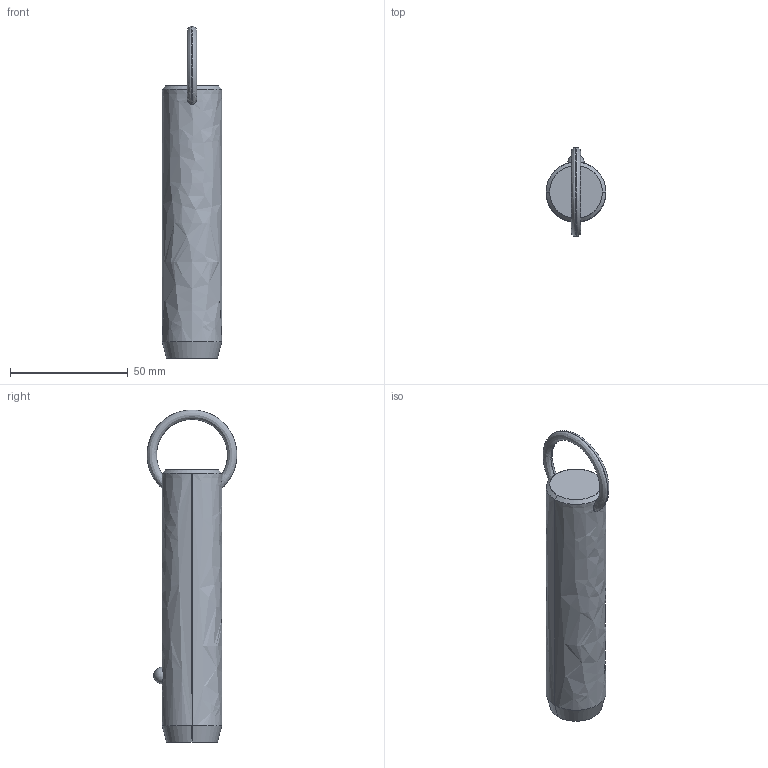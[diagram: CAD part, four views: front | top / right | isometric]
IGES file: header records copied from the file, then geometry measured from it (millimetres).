
Start section: SolidWorks IGES file using analytic representation for surfaces
Global section: file name: C:\Users\liam_\OneDrive\Documents\WORK\Work for WixRoyd\Job Files\J-00019 - Matt Davis CAD Checking\04. CAD Drawings\automotion20190605\P1250.2_v2\P1250.2_v2_20190729_IGES\P1250.100-280.igs; native system: SolidWorks 2017; preprocessor: SolidWorks 2017; author: liam_; date: 190730.173632; units: millimetre
Bounding box: 25.4 x 38.1 x 140.89 mm (x, y, z)
Surface area: 10989.8 mm2 (no closed solid volume)
Topology: 0 solids, 0 shells, 12 faces, 298 edges, 296 vertices
Faces by surface type: revolution 8, bspline 4
